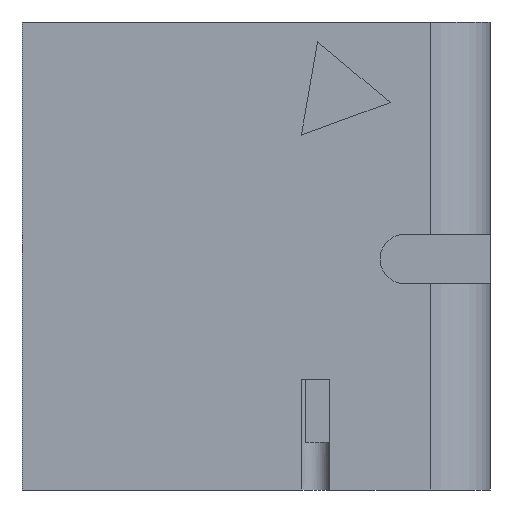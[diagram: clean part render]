
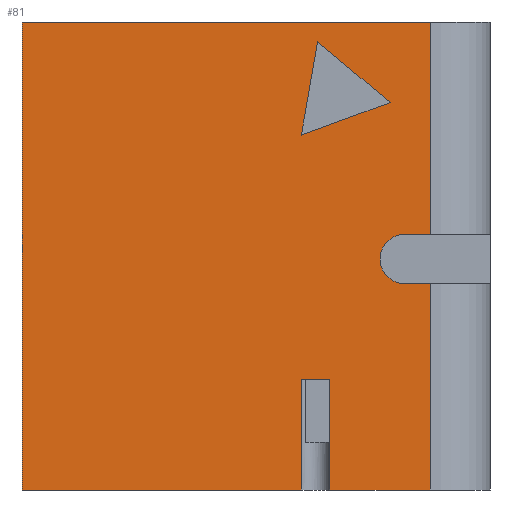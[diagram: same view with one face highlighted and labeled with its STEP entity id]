
A CAD part, left-side view. The second image highlights one B-rep face of the part: STEP entity #81.
In plain terms, the highlighted planar face has unit normal (-1, 0, 0).
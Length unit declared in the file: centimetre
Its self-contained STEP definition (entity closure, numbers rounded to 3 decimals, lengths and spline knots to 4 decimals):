
#2 = VERTEX_POINT ( 'NONE', #113 ) ;
#65 = VERTEX_POINT ( 'NONE', #1015 ) ;
#66 = CARTESIAN_POINT ( 'NONE',  ( 0., 213.1872, 827.9054 ) ) ;
#72 = DIRECTION ( 'NONE',  ( 0., 0., 1. ) ) ;
#81 = ADVANCED_FACE ( 'NONE', ( #1126, #351 ), #1142, .F. ) ;
#82 = DIRECTION ( 'NONE',  ( 0., 1., 0. ) ) ;
#91 = VECTOR ( 'NONE', #72, 100. ) ;
#95 = DIRECTION ( 'NONE',  ( 0., 0., -1. ) ) ;
#97 = EDGE_CURVE ( 'NONE', #946, #1012, #901, .T. ) ;
#113 = CARTESIAN_POINT ( 'NONE',  ( 0., 127.5421, 0. ) ) ;
#114 = VERTEX_POINT ( 'NONE', #1461 ) ;
#145 = VERTEX_POINT ( 'NONE', #1350 ) ;
#160 = CARTESIAN_POINT ( 'NONE',  ( 0., 403.1068, 0. ) ) ;
#164 = ORIENTED_EDGE ( 'NONE', *, *, #760, .T. ) ;
#173 = VECTOR ( 'NONE', #673, 100. ) ;
#174 = CARTESIAN_POINT ( 'NONE',  ( 0., 127.5421, 1000. ) ) ;
#183 = VECTOR ( 'NONE', #671, 100. ) ;
#208 = LINE ( 'NONE', #637, #926 ) ;
#209 = VERTEX_POINT ( 'NONE', #785 ) ;
#211 = CARTESIAN_POINT ( 'NONE',  ( 0., 368.2619, 957.6732 ) ) ;
#215 = VERTEX_POINT ( 'NONE', #344 ) ;
#219 = CARTESIAN_POINT ( 'NONE',  ( 0., 403.1068, 758.4906 ) ) ;
#224 = ORIENTED_EDGE ( 'NONE', *, *, #1144, .T. ) ;
#262 = LINE ( 'NONE', #423, #1459 ) ;
#272 = VERTEX_POINT ( 'NONE', #579 ) ;
#273 = LINE ( 'NONE', #732, #1196 ) ;
#282 = VECTOR ( 'NONE', #635, 100. ) ;
#292 = DIRECTION ( 'NONE',  ( -1., 0., 0. ) ) ;
#297 = CARTESIAN_POINT ( 'NONE',  ( 0., 127.5421, 1000. ) ) ;
#312 = LINE ( 'NONE', #174, #1161 ) ;
#314 = CARTESIAN_POINT ( 'NONE',  ( 0., 1000., 0. ) ) ;
#317 = CARTESIAN_POINT ( 'NONE',  ( 0., 1000., 1000. ) ) ;
#321 = ORIENTED_EDGE ( 'NONE', *, *, #962, .F. ) ;
#332 = DIRECTION ( 'NONE',  ( 0., 0., -1. ) ) ;
#340 = EDGE_LOOP ( 'NONE', ( #668, #1107, #1457, #1092, #844, #556, #588, #164, #1164, #518, #224, #955 ) ) ;
#344 = CARTESIAN_POINT ( 'NONE',  ( 0., 127.5421, 1000. ) ) ;
#351 = FACE_OUTER_BOUND ( 'NONE', #340, .T. ) ;
#379 = LINE ( 'NONE', #875, #655 ) ;
#394 = EDGE_CURVE ( 'NONE', #65, #145, #262, .T. ) ;
#395 = DIRECTION ( 'NONE',  ( 0., 0., -1. ) ) ;
#410 = LINE ( 'NONE', #1426, #282 ) ;
#420 = CARTESIAN_POINT ( 'NONE',  ( 0., 213.1872, 827.9054 ) ) ;
#423 = CARTESIAN_POINT ( 'NONE',  ( 0., 1000., 236.9879 ) ) ;
#430 = CARTESIAN_POINT ( 'NONE',  ( 0., 342.4368, 0. ) ) ;
#431 = LINE ( 'NONE', #314, #1041 ) ;
#450 = CARTESIAN_POINT ( 'NONE',  ( 0., 127.5421, 440.6674 ) ) ;
#475 = VERTEX_POINT ( 'NONE', #552 ) ;
#502 = CARTESIAN_POINT ( 'NONE',  ( 0., 182.0977, 493.5987 ) ) ;
#518 = ORIENTED_EDGE ( 'NONE', *, *, #394, .T. ) ;
#520 = EDGE_CURVE ( 'NONE', #272, #215, #782, .T. ) ;
#552 = CARTESIAN_POINT ( 'NONE',  ( 0., 182.0977, 546.53 ) ) ;
#556 = ORIENTED_EDGE ( 'NONE', *, *, #520, .F. ) ;
#574 = VERTEX_POINT ( 'NONE', #450 ) ;
#579 = CARTESIAN_POINT ( 'NONE',  ( 0., 1000., 1000. ) ) ;
#587 = VECTOR ( 'NONE', #1439, 100. ) ;
#588 = ORIENTED_EDGE ( 'NONE', *, *, #1310, .T. ) ;
#604 = DIRECTION ( 'NONE',  ( 0., 0., -1. ) ) ;
#627 = VERTEX_POINT ( 'NONE', #1047 ) ;
#635 = DIRECTION ( 'NONE',  ( 0., -1., 0. ) ) ;
#637 = CARTESIAN_POINT ( 'NONE',  ( 0., 182.0977, 546.53 ) ) ;
#655 = VECTOR ( 'NONE', #95, 100. ) ;
#661 = VECTOR ( 'NONE', #907, 100. ) ;
#668 = ORIENTED_EDGE ( 'NONE', *, *, #768, .T. ) ;
#671 = DIRECTION ( 'NONE',  ( 0., 0.172, -0.985 ) ) ;
#673 = DIRECTION ( 'NONE',  ( 0., -0.939, 0.343 ) ) ;
#710 = VECTOR ( 'NONE', #1105, 100. ) ;
#718 = EDGE_CURVE ( 'NONE', #114, #215, #312, .T. ) ;
#732 = CARTESIAN_POINT ( 'NONE',  ( 0., 342.4368, 236.9879 ) ) ;
#751 = ORIENTED_EDGE ( 'NONE', *, *, #1391, .F. ) ;
#757 = LINE ( 'NONE', #888, #1300 ) ;
#760 = EDGE_CURVE ( 'NONE', #627, #1122, #410, .T. ) ;
#761 = LINE ( 'NONE', #1212, #710 ) ;
#768 = EDGE_CURVE ( 'NONE', #2, #574, #860, .T. ) ;
#782 = LINE ( 'NONE', #317, #661 ) ;
#784 = LINE ( 'NONE', #219, #173 ) ;
#785 = CARTESIAN_POINT ( 'NONE',  ( 0., 182.0977, 440.6674 ) ) ;
#816 = EDGE_CURVE ( 'NONE', #209, #574, #761, .T. ) ;
#844 = ORIENTED_EDGE ( 'NONE', *, *, #718, .T. ) ;
#860 = LINE ( 'NONE', #297, #91 ) ;
#875 = CARTESIAN_POINT ( 'NONE',  ( 0., 1000., 1000. ) ) ;
#888 = CARTESIAN_POINT ( 'NONE',  ( 0., 403.1068, 236.9879 ) ) ;
#892 = AXIS2_PLACEMENT_3D ( 'NONE', #502, #292, #604 ) ;
#901 = LINE ( 'NONE', #211, #183 ) ;
#907 = DIRECTION ( 'NONE',  ( 0., -1., 0. ) ) ;
#916 = DIRECTION ( 'NONE',  ( 1., 0., 0. ) ) ;
#922 = VERTEX_POINT ( 'NONE', #430 ) ;
#926 = VECTOR ( 'NONE', #82, 100. ) ;
#946 = VERTEX_POINT ( 'NONE', #1224 ) ;
#953 = CARTESIAN_POINT ( 'NONE',  ( 0., 403.1068, 758.4906 ) ) ;
#954 = DIRECTION ( 'NONE',  ( 0., -1., 0. ) ) ;
#955 = ORIENTED_EDGE ( 'NONE', *, *, #1393, .T. ) ;
#962 = EDGE_CURVE ( 'NONE', #1012, #1302, #784, .T. ) ;
#1012 = VERTEX_POINT ( 'NONE', #953 ) ;
#1015 = CARTESIAN_POINT ( 'NONE',  ( 0., 403.1068, 236.9879 ) ) ;
#1041 = VECTOR ( 'NONE', #1091, 100. ) ;
#1047 = CARTESIAN_POINT ( 'NONE',  ( 0., 1000., 0. ) ) ;
#1091 = DIRECTION ( 'NONE',  ( 0., -1., 0. ) ) ;
#1092 = ORIENTED_EDGE ( 'NONE', *, *, #1447, .F. ) ;
#1100 = EDGE_LOOP ( 'NONE', ( #751, #321, #1456 ) ) ;
#1105 = DIRECTION ( 'NONE',  ( 0., -1., 0. ) ) ;
#1107 = ORIENTED_EDGE ( 'NONE', *, *, #816, .F. ) ;
#1122 = VERTEX_POINT ( 'NONE', #160 ) ;
#1126 = FACE_BOUND ( 'NONE', #1100, .T. ) ;
#1142 = PLANE ( 'NONE',  #1160 ) ;
#1144 = EDGE_CURVE ( 'NONE', #145, #922, #273, .T. ) ;
#1160 = AXIS2_PLACEMENT_3D ( 'NONE', #1246, #916, #332 ) ;
#1161 = VECTOR ( 'NONE', #1431, 100. ) ;
#1164 = ORIENTED_EDGE ( 'NONE', *, *, #1402, .F. ) ;
#1196 = VECTOR ( 'NONE', #395, 100. ) ;
#1212 = CARTESIAN_POINT ( 'NONE',  ( 0., 0., 440.6674 ) ) ;
#1220 = DIRECTION ( 'NONE',  ( 0., 0., -1. ) ) ;
#1224 = CARTESIAN_POINT ( 'NONE',  ( 0., 368.2619, 957.6732 ) ) ;
#1246 = CARTESIAN_POINT ( 'NONE',  ( 0., 1000., 1000. ) ) ;
#1269 = EDGE_CURVE ( 'NONE', #475, #209, #1419, .T. ) ;
#1300 = VECTOR ( 'NONE', #1220, 100. ) ;
#1302 = VERTEX_POINT ( 'NONE', #66 ) ;
#1310 = EDGE_CURVE ( 'NONE', #272, #627, #379, .T. ) ;
#1323 = LINE ( 'NONE', #420, #587 ) ;
#1350 = CARTESIAN_POINT ( 'NONE',  ( 0., 342.4368, 236.9879 ) ) ;
#1391 = EDGE_CURVE ( 'NONE', #1302, #946, #1323, .T. ) ;
#1393 = EDGE_CURVE ( 'NONE', #922, #2, #431, .T. ) ;
#1402 = EDGE_CURVE ( 'NONE', #65, #1122, #757, .T. ) ;
#1419 = CIRCLE ( 'NONE', #892, 52.9313 ) ;
#1426 = CARTESIAN_POINT ( 'NONE',  ( 0., 1000., 0. ) ) ;
#1431 = DIRECTION ( 'NONE',  ( 0., 0., 1. ) ) ;
#1439 = DIRECTION ( 'NONE',  ( 0., 0.767, 0.642 ) ) ;
#1447 = EDGE_CURVE ( 'NONE', #114, #475, #208, .T. ) ;
#1456 = ORIENTED_EDGE ( 'NONE', *, *, #97, .F. ) ;
#1457 = ORIENTED_EDGE ( 'NONE', *, *, #1269, .F. ) ;
#1459 = VECTOR ( 'NONE', #954, 100. ) ;
#1461 = CARTESIAN_POINT ( 'NONE',  ( 0., 127.5421, 546.53 ) ) ;
